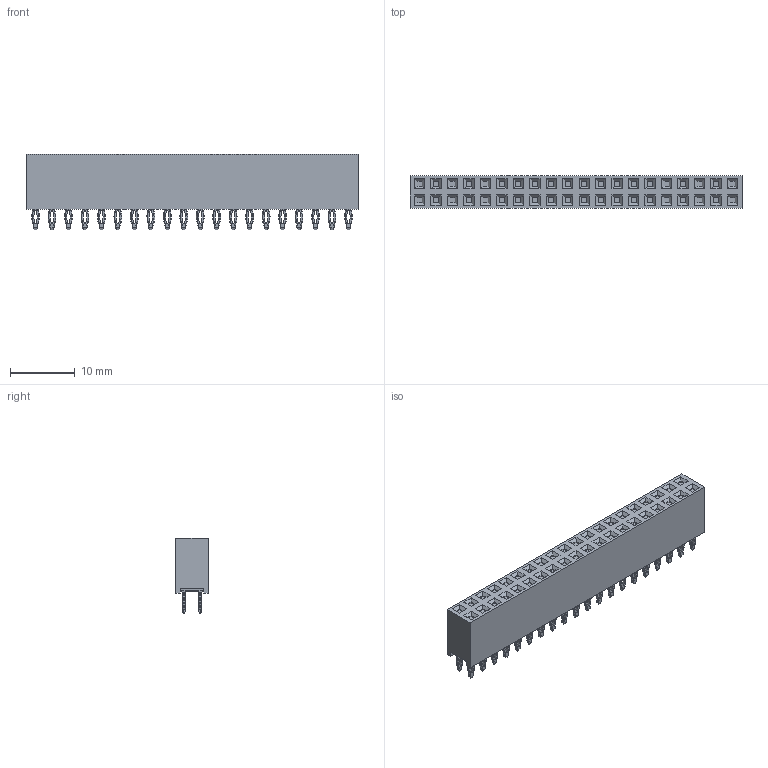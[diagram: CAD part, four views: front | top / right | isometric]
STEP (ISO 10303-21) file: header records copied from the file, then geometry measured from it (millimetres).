
FILE_DESCRIPTION (( 'STEP AP203' ), '1' );
FILE_NAME ('2044-2X40GxxSPA.STEP', '2018-03-22T11:48:24', ( '' ), ( '' ), 'SwSTEP 2.0', 'SolidWorks 2011', '' );
FILE_SCHEMA (( 'CONFIG_CONTROL_DESIGN' ));
Length unit declared in the file: millimetre
Products named in the file (1): 2044-2X40GxxSPA
Bounding box: 51.2 x 5 x 11.7 mm (x, y, z)
Volume: 2053.7 mm3; surface area: 2032.8 mm2
Topology: 41 solids, 41 shells, 2724 faces, 7326 edges, 4724 vertices
Faces by surface type: plane 1284, torus 560, cylinder 560, bspline 320
Entity records: 93727 total; most frequent: CARTESIAN_POINT 27415, ORIENTED_EDGE 14652, DIRECTION 13176, EDGE_CURVE 7326, AXIS2_PLACEMENT_3D 4885, VERTEX_POINT 4724, LINE 3406, VECTOR 3406
